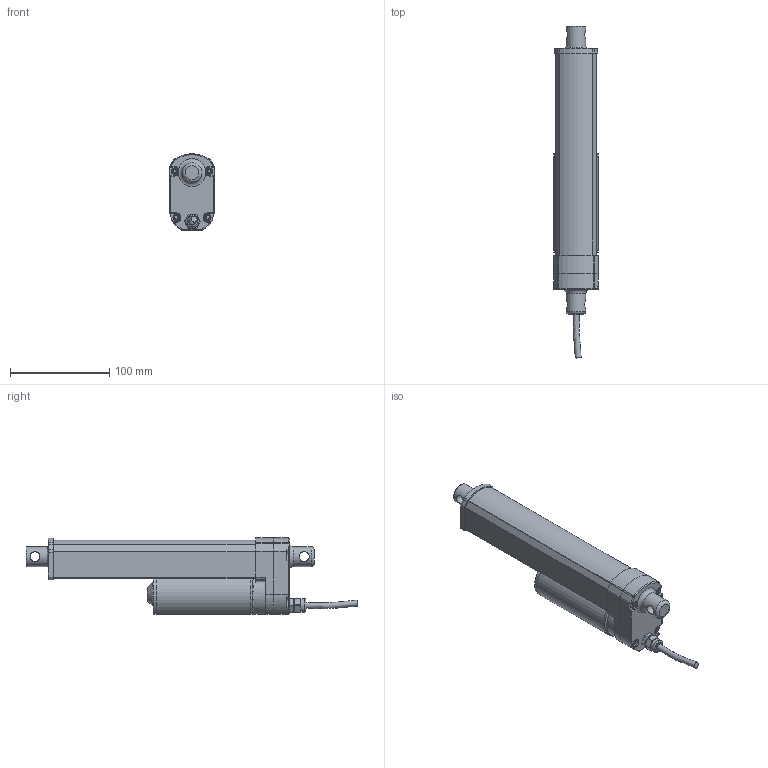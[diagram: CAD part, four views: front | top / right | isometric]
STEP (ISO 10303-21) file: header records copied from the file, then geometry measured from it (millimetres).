
FILE_DESCRIPTION (( 'STEP AP203' ), '1' );
FILE_NAME ('MK52.STEP', '2026-01-29T05:52:58', ( '' ), ( '' ), 'SwSTEP 2.0', 'SolidWorks 2023', '' );
FILE_SCHEMA (( 'CONFIG_CONTROL_DESIGN' ));
Length unit declared in the file: millimetre
Products named in the file (3): Inner tube; boby; MK52
Assembly tree (2 placements, depth 2):
  MK52
    boby
    Inner tube
Bounding box: 45 x 335.23 x 76.94 mm (x, y, z)
Surface area: 118184.9 mm2 (no closed solid volume)
Topology: 0 solids, 19 shells, 275 faces, 788 edges, 523 vertices
Faces by surface type: cylinder 117, plane 100, cone 22, torus 21, sphere 8, bspline 7
Full cylindrical faces by diameter (mm): 2.5 x4, 4 x4, 5 x2, 6 x1, 7 x1, 10 x2, 13.5 x1, 16.4 x1, 20 x3, 23 x1, 26 x1, 40.1 x1
Entity records: 9651 total; most frequent: CARTESIAN_POINT 2504, DIRECTION 1503, ORIENTED_EDGE 1233, EDGE_CURVE 719, AXIS2_PLACEMENT_3D 581, VERTEX_POINT 508, EDGE_LOOP 347, LINE 341
